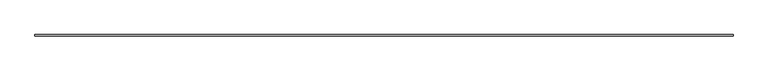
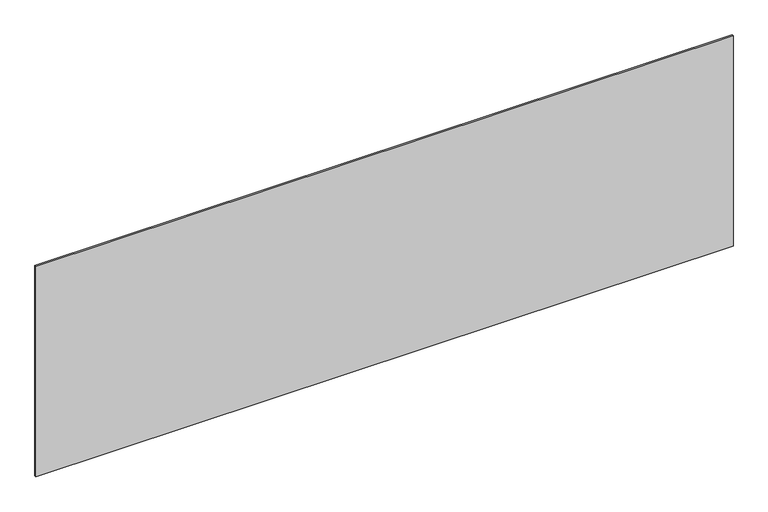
"""IFC4 building model written with IfcOpenShell, lengths in millimetres: plate geometry, システム パネル : 標準."""

from ifc_helpers import new_model, si_unit, origin, origin_with_axes, place, context, project, spatial, polyline, outline, extrude, source, transform, mapped, element, save


def plate_c64fcfb8(model_context):
    return source(origin(), model_context, "Body", "SweptSolid", [
        extrude(outline(polyline([(2281.6666667, -5.0), (-2281.6666667, -5.0), (-2281.6666667, 5.0), (2281.6666667, 5.0), (2281.6666667, -5.0)])), origin_with_axes(), (0.0, 0.0, 1.0), 1455.9537374),
    ])


if __name__ == "__main__":
    model = new_model("IFC4")
    model_context = context("Model", 3, world=origin())
    ifc_project = project(units=[si_unit("LENGTHUNIT", "METRE", prefix="MILLI")], contexts=[model_context])
    site = spatial("IfcSite", under=ifc_project)
    building = spatial("IfcBuilding", under=site)
    placement = place(None, origin())
    plate_shape = plate_c64fcfb8(model_context)
    element("IfcPlate", 1, ObjectType="システム パネル : 標準", at=placement, inside=building, context=model_context, shape_type="MappedRepresentation", body=[
        mapped(plate_shape, transform((0.0, 0.0, 0.0), x_axis=(1.0, 0.0, 0.0), y_axis=(0.0, 1.0, 0.0), z_axis=(0.0, 0.0, 1.0))),
    ])
    save(model, "model.ifc")
